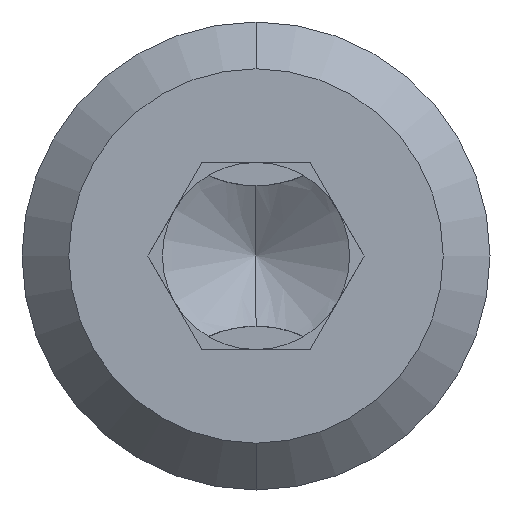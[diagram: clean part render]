
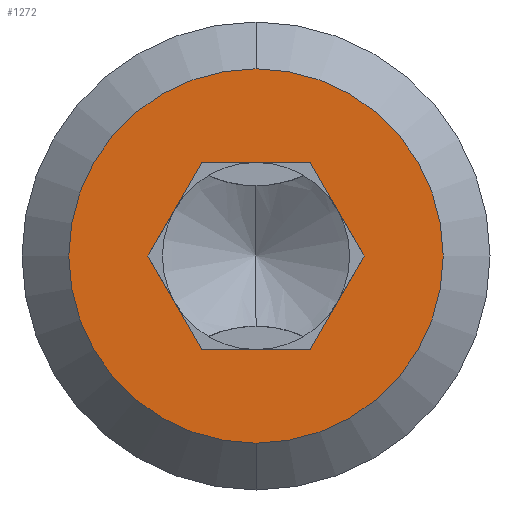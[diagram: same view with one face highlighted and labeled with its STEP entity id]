
A CAD part, front view. The second image highlights one B-rep face of the part: STEP entity #1272.
In plain terms, the highlighted planar face has unit normal (0, -1, 0).
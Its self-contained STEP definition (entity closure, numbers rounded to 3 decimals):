
#36 = FACE_BOUND ( 'NONE', #2278, .T. ) ;
#63 = LINE ( 'NONE', #1107, #3211 ) ;
#87 = VERTEX_POINT ( 'NONE', #266 ) ;
#114 = VECTOR ( 'NONE', #2729, 1000. ) ;
#121 = CARTESIAN_POINT ( 'NONE',  ( 0., -80., 4. ) ) ;
#171 = DIRECTION ( 'NONE',  ( 0., 0., 1. ) ) ;
#201 = PLANE ( 'NONE',  #2533 ) ;
#266 = CARTESIAN_POINT ( 'NONE',  ( 0., -80., -4. ) ) ;
#268 = LINE ( 'NONE', #3202, #870 ) ;
#325 = VECTOR ( 'NONE', #1567, 1000. ) ;
#499 = EDGE_CURVE ( 'NONE', #2251, #1117, #1522, .T. ) ;
#633 = FACE_OUTER_BOUND ( 'NONE', #806, .T. ) ;
#785 = VECTOR ( 'NONE', #1888, 1000. ) ;
#788 = LINE ( 'NONE', #2744, #114 ) ;
#806 = EDGE_LOOP ( 'NONE', ( #1711, #1795 ) ) ;
#810 = CARTESIAN_POINT ( 'NONE',  ( -1.232, -80., 1.866 ) ) ;
#822 = CARTESIAN_POINT ( 'NONE',  ( 1.155, -80., -2. ) ) ;
#864 = VECTOR ( 'NONE', #1887, 1000. ) ;
#870 = VECTOR ( 'NONE', #3146, 1000. ) ;
#923 = DIRECTION ( 'NONE',  ( 0., -1., 0. ) ) ;
#937 = DIRECTION ( 'NONE',  ( 0., -1., 0. ) ) ;
#989 = EDGE_CURVE ( 'NONE', #1414, #1201, #63, .T. ) ;
#1036 = CARTESIAN_POINT ( 'NONE',  ( -2.309, -80., 0. ) ) ;
#1107 = CARTESIAN_POINT ( 'NONE',  ( 2., -80., -2. ) ) ;
#1117 = VERTEX_POINT ( 'NONE', #3088 ) ;
#1200 = CARTESIAN_POINT ( 'NONE',  ( -1.155, -80., -2. ) ) ;
#1201 = VERTEX_POINT ( 'NONE', #1200 ) ;
#1213 = EDGE_CURVE ( 'NONE', #1201, #1894, #788, .T. ) ;
#1272 = ADVANCED_FACE ( 'NONE', ( #633, #36 ), #201, .F. ) ;
#1312 = DIRECTION ( 'NONE',  ( 0., 0., 1. ) ) ;
#1324 = CARTESIAN_POINT ( 'NONE',  ( 1.155, -80., 2. ) ) ;
#1380 = LINE ( 'NONE', #810, #785 ) ;
#1414 = VERTEX_POINT ( 'NONE', #822 ) ;
#1420 = CARTESIAN_POINT ( 'NONE',  ( 2.232, -80., 0.134 ) ) ;
#1447 = AXIS2_PLACEMENT_3D ( 'NONE', #2937, #937, #171 ) ;
#1512 = EDGE_CURVE ( 'NONE', #1983, #87, #1781, .T. ) ;
#1522 = LINE ( 'NONE', #1420, #864 ) ;
#1567 = DIRECTION ( 'NONE',  ( -0.5, 0., -0.866 ) ) ;
#1579 = EDGE_CURVE ( 'NONE', #2435, #2251, #268, .T. ) ;
#1595 = CARTESIAN_POINT ( 'NONE',  ( 2.232, -80., -0.134 ) ) ;
#1612 = CIRCLE ( 'NONE', #2671, 4. ) ;
#1640 = EDGE_CURVE ( 'NONE', #1894, #2435, #1380, .T. ) ;
#1711 = ORIENTED_EDGE ( 'NONE', *, *, #1512, .T. ) ;
#1781 = CIRCLE ( 'NONE', #1447, 4. ) ;
#1795 = ORIENTED_EDGE ( 'NONE', *, *, #2888, .T. ) ;
#1804 = DIRECTION ( 'NONE',  ( 0., 1., 0. ) ) ;
#1816 = CARTESIAN_POINT ( 'NONE',  ( -1.155, -80., 2. ) ) ;
#1887 = DIRECTION ( 'NONE',  ( 0.5, 0., -0.866 ) ) ;
#1888 = DIRECTION ( 'NONE',  ( 0.5, 0., 0.866 ) ) ;
#1894 = VERTEX_POINT ( 'NONE', #1036 ) ;
#1983 = VERTEX_POINT ( 'NONE', #121 ) ;
#2151 = ORIENTED_EDGE ( 'NONE', *, *, #1579, .T. ) ;
#2183 = DIRECTION ( 'NONE',  ( -1., 0., 0. ) ) ;
#2221 = ORIENTED_EDGE ( 'NONE', *, *, #1213, .T. ) ;
#2251 = VERTEX_POINT ( 'NONE', #1324 ) ;
#2278 = EDGE_LOOP ( 'NONE', ( #2151, #2392, #2984, #3184, #2221, #2338 ) ) ;
#2338 = ORIENTED_EDGE ( 'NONE', *, *, #1640, .T. ) ;
#2392 = ORIENTED_EDGE ( 'NONE', *, *, #499, .T. ) ;
#2435 = VERTEX_POINT ( 'NONE', #1816 ) ;
#2442 = CARTESIAN_POINT ( 'NONE',  ( 0., -80., 0. ) ) ;
#2533 = AXIS2_PLACEMENT_3D ( 'NONE', #2822, #1804, #1312 ) ;
#2597 = EDGE_CURVE ( 'NONE', #1117, #1414, #3023, .T. ) ;
#2671 = AXIS2_PLACEMENT_3D ( 'NONE', #2442, #923, #2702 ) ;
#2702 = DIRECTION ( 'NONE',  ( 0., 0., 1. ) ) ;
#2729 = DIRECTION ( 'NONE',  ( -0.5, 0., 0.866 ) ) ;
#2744 = CARTESIAN_POINT ( 'NONE',  ( -1.232, -80., -1.866 ) ) ;
#2822 = CARTESIAN_POINT ( 'NONE',  ( 2., -80., 0. ) ) ;
#2888 = EDGE_CURVE ( 'NONE', #87, #1983, #1612, .T. ) ;
#2937 = CARTESIAN_POINT ( 'NONE',  ( 0., -80., 0. ) ) ;
#2984 = ORIENTED_EDGE ( 'NONE', *, *, #2597, .T. ) ;
#3023 = LINE ( 'NONE', #1595, #325 ) ;
#3088 = CARTESIAN_POINT ( 'NONE',  ( 2.309, -80., 0. ) ) ;
#3146 = DIRECTION ( 'NONE',  ( 1., 0., 0. ) ) ;
#3184 = ORIENTED_EDGE ( 'NONE', *, *, #989, .T. ) ;
#3202 = CARTESIAN_POINT ( 'NONE',  ( 2., -80., 2. ) ) ;
#3211 = VECTOR ( 'NONE', #2183, 1000. ) ;
